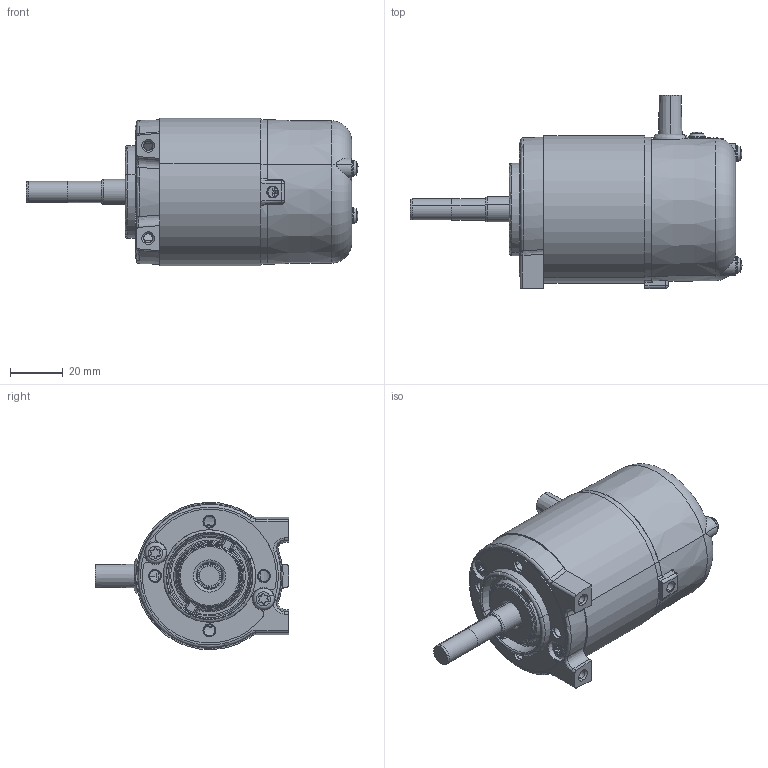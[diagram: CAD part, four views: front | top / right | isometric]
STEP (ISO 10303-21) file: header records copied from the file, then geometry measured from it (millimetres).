
FILE_DESCRIPTION (( 'STEP AP214' ), '1' );
FILE_NAME ('PM7.STEP', '2021-07-05T08:33:38', ( '' ), ( '' ), 'SwSTEP 2.0', 'SolidWorks 2020', '' );
FILE_SCHEMA (( 'AUTOMOTIVE_DESIGN' ));
Length unit declared in the file: millimetre
Products named in the file (1): PM7
Bounding box: 125.86 x 73.25 x 55.83 mm (x, y, z)
Surface area: 27646.2 mm2 (no closed solid volume)
Topology: 0 solids, 14 shells, 418 faces, 1353 edges, 941 vertices
Faces by surface type: cylinder 119, plane 94, cone 90, bspline 84, torus 29, sphere 2
Entity records: 28469 total; most frequent: CARTESIAN_POINT 12796, ORIENTED_EDGE 2332, DIRECTION 2084, EDGE_CURVE 1341, VERTEX_POINT 941, AXIS2_PLACEMENT_3D 814, CIRCLE 479, EDGE_LOOP 470
